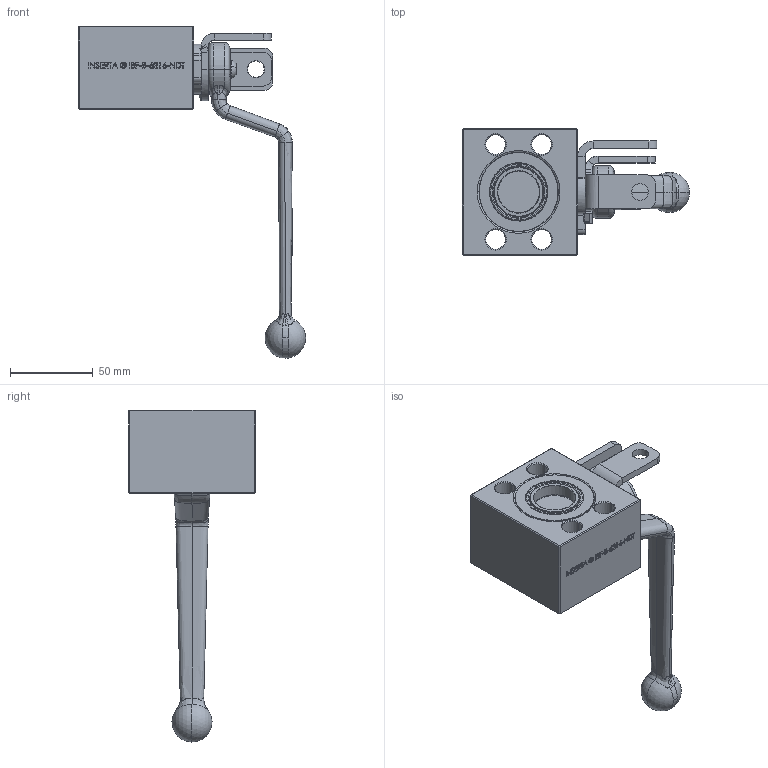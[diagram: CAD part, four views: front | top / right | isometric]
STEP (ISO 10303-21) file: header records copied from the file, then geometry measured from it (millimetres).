
FILE_DESCRIPTION (( 'STEP AP214' ), '1' );
FILE_NAME ('IBF-B-6216-N-D-T Open.STEP', '2026-02-16T15:54:01', ( '' ), ( '' ), 'SwSTEP 2.0', 'SolidWorks 2025', '' );
FILE_SCHEMA (( 'AUTOMOTIVE_DESIGN' ));
Length unit declared in the file: inch
Products named in the file (1): IBF-B-6216-N-D-T Open
Bounding box: 136.99 x 76.2 x 200.18 mm (x, y, z)
Volume: 270789.9 mm3; surface area: 78718.3 mm2
Topology: 2 solids, 3 shells, 1045 faces, 2877 edges, 1872 vertices
Faces by surface type: plane 497, bspline 200, cylinder 177, torus 68, cone 67, sphere 36
Entity records: 59020 total; most frequent: CARTESIAN_POINT 34366, ORIENTED_EDGE 5708, DIRECTION 4269, EDGE_CURVE 2854, VERTEX_POINT 1861, AXIS2_PLACEMENT_3D 1475, VECTOR 1319, LINE 1319
